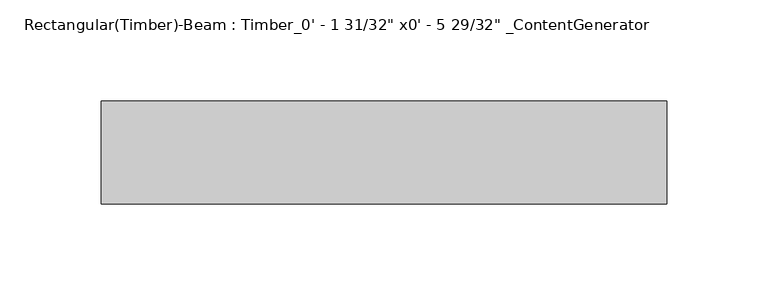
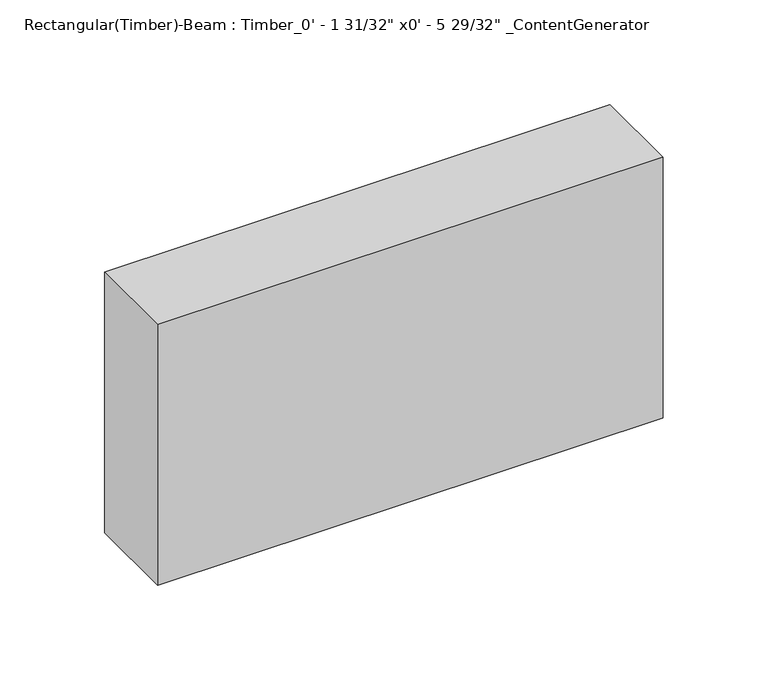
"""IFC4 building model written with IfcOpenShell, lengths in millimetres: beam geometry."""

from ifc_helpers import new_model, si_unit, frame, origin, place, context, project, spatial, polyline, outline, extrude, source, transform, mapped, element, save


def beam_1607fcbd(model_context):
    return source(origin(), model_context, "Body", "SweptSolid", [
        extrude(outline(polyline([(152.4024994, 25.4), (152.4024994, -25.4), (-127.0025, -25.4), (-127.0025, 25.4), (152.4024994, 25.4)])), frame((0.0, 0.0, -76.2), z_axis=(0.0, 0.0, 1.0), x_axis=(1.0, 0.0, 0.0)), (0.0, 0.0, 1.0), 152.4),
    ])


if __name__ == "__main__":
    model = new_model("IFC4")
    model_context = context("Model", 3, world=origin())
    ifc_project = project(units=[si_unit("LENGTHUNIT", "METRE", prefix="MILLI")], contexts=[model_context])
    site = spatial("IfcSite", under=ifc_project)
    building = spatial("IfcBuilding", under=site)
    placement = place(None, origin())
    beam_shape = beam_1607fcbd(model_context)
    element("IfcBeam", 1, ObjectType="Rectangular(Timber)-Beam : Timber_0' - 1 31/32\" x0' - 5 29/32\" _ContentGenerator", at=placement, inside=building, context=model_context, shape_type="MappedRepresentation", body=[
        mapped(beam_shape, transform((0.0, 0.0, 0.0), x_axis=(1.0, 0.0, 0.0), y_axis=(0.0, 1.0, 0.0), z_axis=(0.0, 0.0, 1.0))),
    ])
    save(model, "model.ifc")
